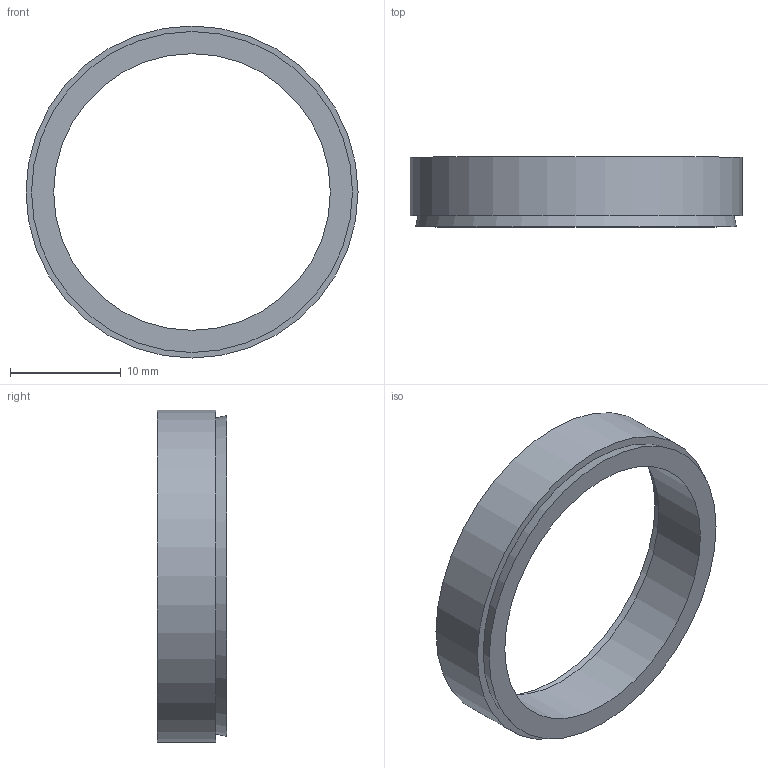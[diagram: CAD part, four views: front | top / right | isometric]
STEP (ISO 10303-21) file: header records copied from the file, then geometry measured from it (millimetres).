
FILE_DESCRIPTION( ( 'Unknown' ), '1' );
FILE_NAME( 'C:/Dokumente und Einstellungen/Sven/Desktop/homepage/cad - homepage/KBS50/KBS 50 - 25 x 30.stp', 'Unknown', ( 'Unknown' ), ( 'Unknown' ), 'XStep 1.0', 'Unknown', ' ' );
FILE_SCHEMA( ( 'automotive_design' ) );
Length unit declared in the file: millimetre
Products named in the file (1): 1
Bounding box: 30 x 6.3 x 30 mm (x, y, z)
Volume: 1253.7 mm3; surface area: 1566.5 mm2
Topology: 1 solids, 1 shells, 8 faces, 12 edges, 8 vertices
Faces by surface type: plane 4, cylinder 2, cone 2
Full cylindrical faces by diameter (mm): 25 x1, 30 x1
Entity records: 248 total; most frequent: DIRECTION 34, CARTESIAN_POINT 25, AXIS2_PLACEMENT_3D 17, EDGE_LOOP 16, ORIENTED_EDGE 16, FACE_OUTER_BOUND 10, STYLED_ITEM 8, PRESENTATION_STYLE_ASSIGNMENT 8
